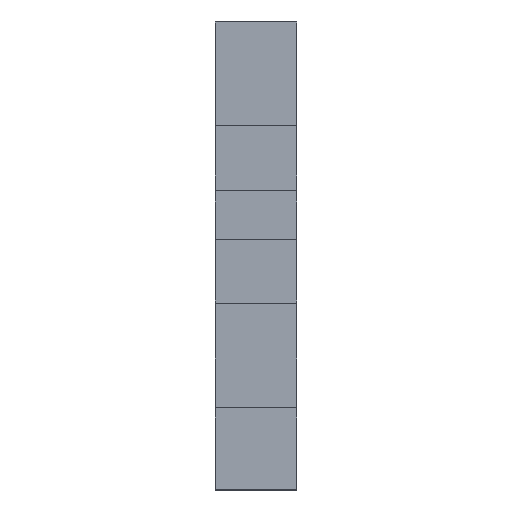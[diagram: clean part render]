
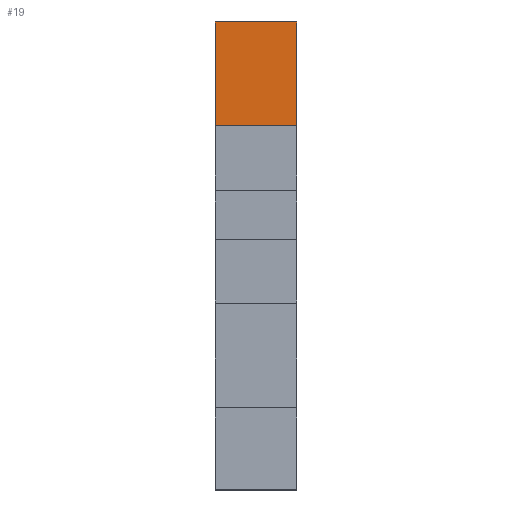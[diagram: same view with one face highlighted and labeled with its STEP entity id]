
A CAD part, top view. The second image highlights one B-rep face of the part: STEP entity #19.
In plain terms, the highlighted planar face has unit normal (0, 0, 1).
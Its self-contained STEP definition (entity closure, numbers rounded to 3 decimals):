
#19=ADVANCED_FACE('',(#65),#775,.T.);
#65=FACE_OUTER_BOUND('',#111,.T.);
#111=EDGE_LOOP('',(#165,#166,#167,#168));
#165=ORIENTED_EDGE('',*,*,#429,.T.);
#166=ORIENTED_EDGE('',*,*,#430,.T.);
#167=ORIENTED_EDGE('',*,*,#431,.T.);
#168=ORIENTED_EDGE('',*,*,#432,.T.);
#429=EDGE_CURVE('',#694,#693,#561,.T.);
#430=EDGE_CURVE('',#693,#695,#562,.T.);
#431=EDGE_CURVE('',#695,#696,#563,.T.);
#432=EDGE_CURVE('',#696,#694,#564,.T.);
#561=B_SPLINE_CURVE_WITH_KNOTS('',1,(#1087,#1088),.UNSPECIFIED.,.F.,.F.,
(2,2),(0.,5.),.UNSPECIFIED.);
#562=B_SPLINE_CURVE_WITH_KNOTS('',1,(#1089,#1090),.UNSPECIFIED.,.F.,.F.,
(2,2),(5.,11.319),.UNSPECIFIED.);
#563=B_SPLINE_CURVE_WITH_KNOTS('',1,(#1091,#1092),.UNSPECIFIED.,.F.,.F.,
(2,2),(11.319,16.319),.UNSPECIFIED.);
#564=B_SPLINE_CURVE_WITH_KNOTS('',1,(#1093,#1094),.UNSPECIFIED.,.F.,.F.,
(2,2),(16.319,22.638),.UNSPECIFIED.);
#693=VERTEX_POINT('',#991);
#694=VERTEX_POINT('',#992);
#695=VERTEX_POINT('',#993);
#696=VERTEX_POINT('',#994);
#775=PLANE('',#841);
#841=AXIS2_PLACEMENT_3D('',#939,#890,$);
#890=DIRECTION('',(0.,0.,1.));
#939=CARTESIAN_POINT('',(-18.946,181.765,391.748));
#991=CARTESIAN_POINT('',(-13.946,181.765,391.748));
#992=CARTESIAN_POINT('',(-18.946,181.765,391.748));
#993=CARTESIAN_POINT('',(-13.946,188.084,391.748));
#994=CARTESIAN_POINT('',(-18.946,188.084,391.748));
#1087=CARTESIAN_POINT('',(-18.946,181.765,391.748));
#1088=CARTESIAN_POINT('',(-13.946,181.765,391.748));
#1089=CARTESIAN_POINT('',(-13.946,181.765,391.748));
#1090=CARTESIAN_POINT('',(-13.946,188.084,391.748));
#1091=CARTESIAN_POINT('',(-13.946,188.084,391.748));
#1092=CARTESIAN_POINT('',(-18.946,188.084,391.748));
#1093=CARTESIAN_POINT('',(-18.946,188.084,391.748));
#1094=CARTESIAN_POINT('',(-18.946,181.765,391.748));
